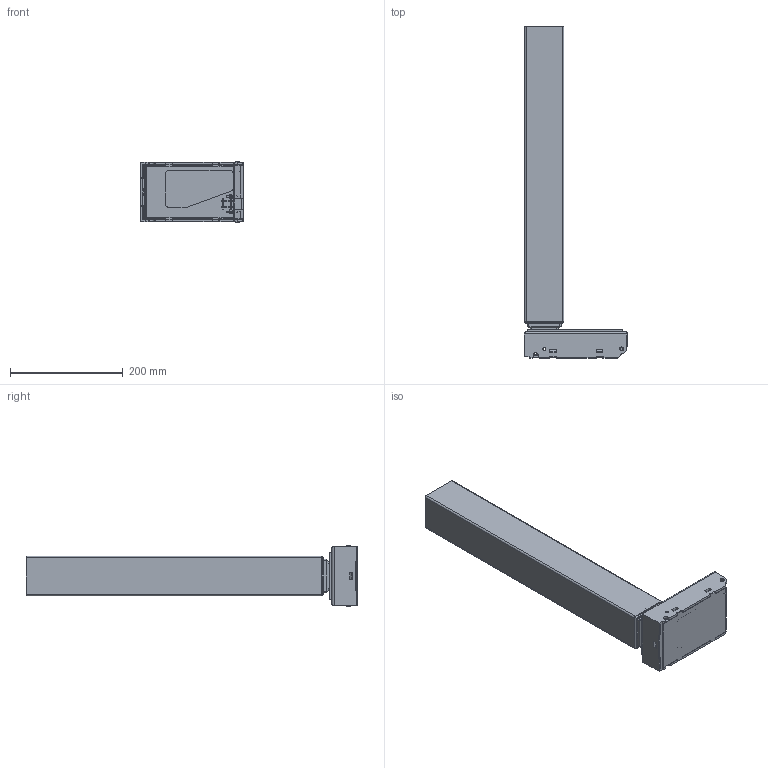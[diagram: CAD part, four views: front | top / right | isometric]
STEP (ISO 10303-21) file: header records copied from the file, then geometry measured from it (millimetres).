
FILE_DESCRIPTION (( 'STEP AP203' ), '1' );
FILE_NAME ('3D_TL4.STEP', '2020-05-11T03:22:26', ( '' ), ( '' ), 'SwSTEP 2.0', 'SolidWorks 2015', '' );
FILE_SCHEMA (( 'CONFIG_CONTROL_DESIGN' ));
Length unit declared in the file: millimetre
Products named in the file (1): 3D_TL4
Bounding box: 183.14 x 590 x 107 mm (x, y, z)
Volume: 984358.5 mm3; surface area: 864040.7 mm2
Topology: 8 solids, 8 shells, 1829 faces, 4696 edges, 2780 vertices
Faces by surface type: cylinder 748, plane 653, bspline 139, cone 100, sphere 97, torus 92
Entity records: 61529 total; most frequent: CARTESIAN_POINT 18699, ORIENTED_EDGE 9168, DIRECTION 8806, EDGE_CURVE 4584, AXIS2_PLACEMENT_3D 3119, VERTEX_POINT 2780, LINE 2568, VECTOR 2568
